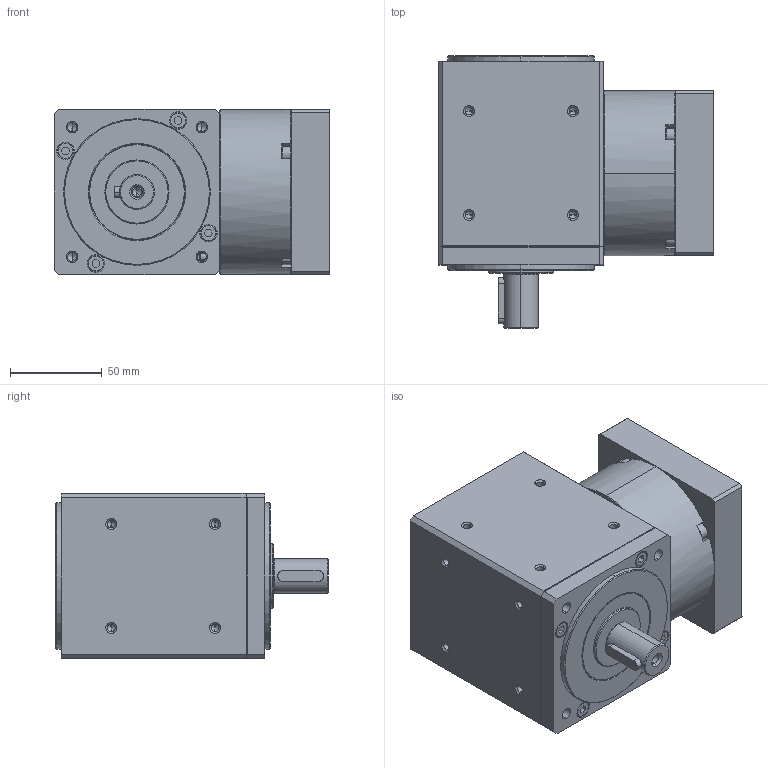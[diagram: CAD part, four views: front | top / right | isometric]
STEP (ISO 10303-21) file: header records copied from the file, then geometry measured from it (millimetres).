
FILE_DESCRIPTION (( 'STEP AP203' ), '1' );
FILE_NAME ('RLAS-090-005.STEP', '2012-05-29T20:15:12', ( 'render' ), ( '' ), 'SwSTEP 2.0', 'SolidWorks 2011', '' );
FILE_SCHEMA (( 'CONFIG_CONTROL_DESIGN' ));
Length unit declared in the file: millimetre
Products named in the file (1): RLAS-090-005
Bounding box: 150 x 148.5 x 90 mm (x, y, z)
Volume: 792229.6 mm3; surface area: 233831.6 mm2
Topology: 34 solids, 34 shells, 1282 faces, 3026 edges, 1840 vertices
Faces by surface type: cylinder 411, plane 396, cone 392, bspline 83
Entity records: 46758 total; most frequent: CARTESIAN_POINT 17812, DIRECTION 6121, ORIENTED_EDGE 5872, EDGE_CURVE 2936, AXIS2_PLACEMENT_3D 2370, VERTEX_POINT 1840, EDGE_LOOP 1478, LINE 1381
